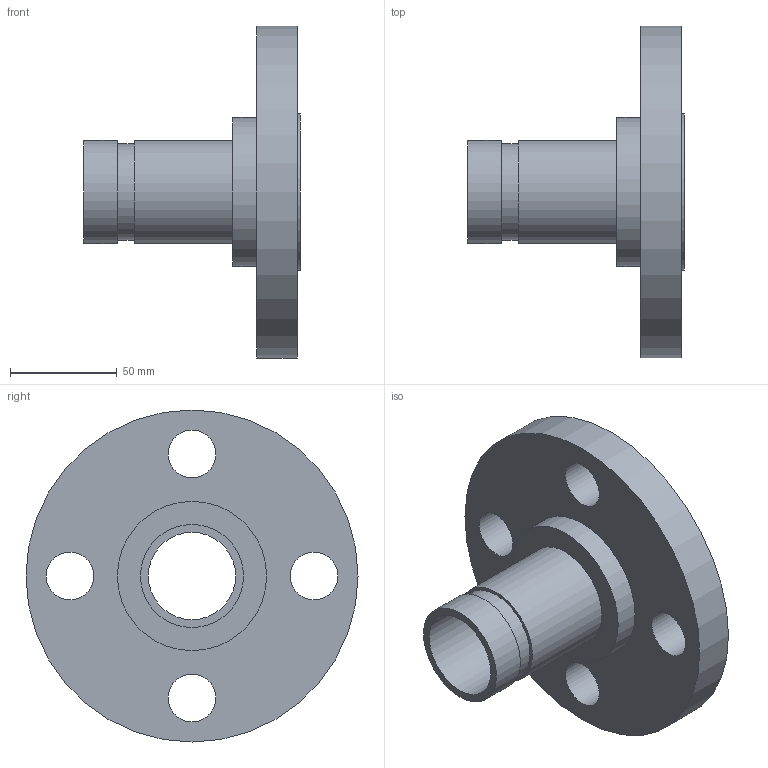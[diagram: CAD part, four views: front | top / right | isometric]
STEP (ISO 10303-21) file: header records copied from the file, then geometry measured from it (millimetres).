
FILE_DESCRIPTION(/* description */ ('VIC FLANGE ADAPTER No 46R','CAx-IF Rec.Pracs.---Representation and Presentation of Product Manufacturing Information (PMI)---4.0---2014-10-13'),/* implementation_level */ '2;1');
FILE_NAME(/* name */ 'C:\Users\kkamble\AppData\Roaming\Autodesk\ApplicationPlugins\Back Up\Victaulic_IPS_Flanged Adapter Nipple_CL 300 RF_No 46R (OGSxFLG)\Victaulic_IPS_Flanged Adapter Nipple_CL 300 RF_No 46R (OGSxFLG)_1.5 (40).stp',/* time_stamp */ '2020-07-26T22:25:34+06:00',/* author */ ('CONSTRUCTION PIPING SERVICES'),/* organization */ ('Victaulic'),/* preprocessor_version */ 'ST-DEVELOPER v17.2',/* originating_system */ 'Autodesk Inventor 2019',/* authorisation */ '');
FILE_SCHEMA (('AP242_MANAGED_MODEL_BASED_3D_ENGINEERING_MIM_LF { 1 0 10303 442 1 1 4 }'));
Length unit declared in the file: inch
Products named in the file (1): 046R-01.5
Bounding box: 101.6 x 155.45 x 155.45 mm (x, y, z)
Volume: 373344.7 mm3; surface area: 73676.7 mm2
Topology: 1 solids, 1 shells, 18 faces, 47 edges, 36 vertices
Faces by surface type: cylinder 11, plane 7
Full cylindrical faces by diameter (mm): 22.352 x4, 40.894 x1, 45.085 x1, 48.26 x2, 69.85 x1, 73.152 x1, 155.448 x1
Entity records: 689 total; most frequent: DIRECTION 121, CARTESIAN_POINT 102, ORIENTED_EDGE 94, AXIS2_PLACEMENT_3D 55, EDGE_CURVE 47, CIRCLE 36, VERTEX_POINT 36, EDGE_LOOP 33
